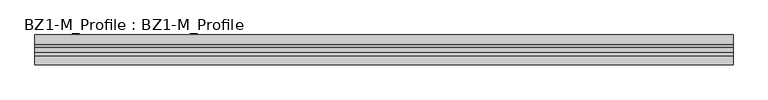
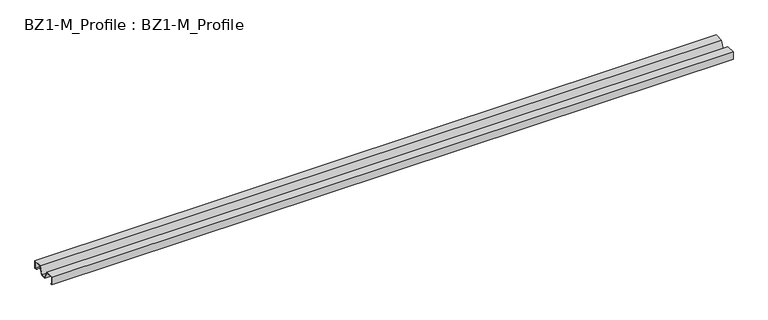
"""IFC4 building model written with IfcOpenShell, lengths in millimetres: beam geometry, BZ1-M_Profile : BZ1-M_Profile."""

from ifc_helpers import new_model, si_unit, frame, origin, place, context, project, spatial, polyline, outline, extrude, source, transform, mapped, element, save


def bz1_m_profile_bz1_m_profile_995af08a(model_context):
    return source(origin(), model_context, "Body", "SweptSolid", [
        extrude(outline(polyline([(45.0, 25.0), (45.0, 0.0), (39.0, 0.0), (39.0, 1.0), (44.0, 1.0), (44.0, 24.0), (18.3051526, 24.0), (8.117757, 0.0), (-8.117757, 0.0), (-18.3051526, 24.0), (-44.0, 24.0), (-44.0, 1.0), (-39.0, 1.0), (-39.0, 0.0), (-45.0, 0.0), (-45.0, 25.0), (-17.643267, 25.0), (-7.4558714, 1.0), (7.4558714, 1.0), (17.643267, 25.0), (45.0, 25.0)])), frame((-1049.5, 0.0, 0.0), z_axis=(1.0, 0.0, 0.0), x_axis=(0.0, 1.0, 0.0)), (0.0, 0.0, 1.0), 2099.0),
    ])


if __name__ == "__main__":
    model = new_model("IFC4")
    model_context = context("Model", 3, world=origin())
    ifc_project = project(units=[si_unit("LENGTHUNIT", "METRE", prefix="MILLI")], contexts=[model_context])
    site = spatial("IfcSite", under=ifc_project)
    building = spatial("IfcBuilding", under=site)
    placement = place(None, origin())
    bz1_m_profile_bz1_m_profile_shape = bz1_m_profile_bz1_m_profile_995af08a(model_context)
    element("IfcBeam", 1, ObjectType="BZ1-M_Profile : BZ1-M_Profile", at=placement, inside=building, context=model_context, shape_type="MappedRepresentation", body=[
        mapped(bz1_m_profile_bz1_m_profile_shape, transform((0.0, 0.0, 0.0), x_axis=(1.0, 0.0, 0.0), y_axis=(0.0, 1.0, 0.0), z_axis=(0.0, 0.0, 1.0))),
    ])
    save(model, "model.ifc")
